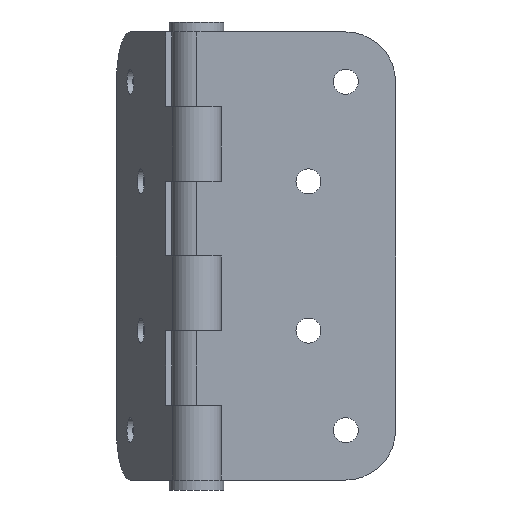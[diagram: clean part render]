
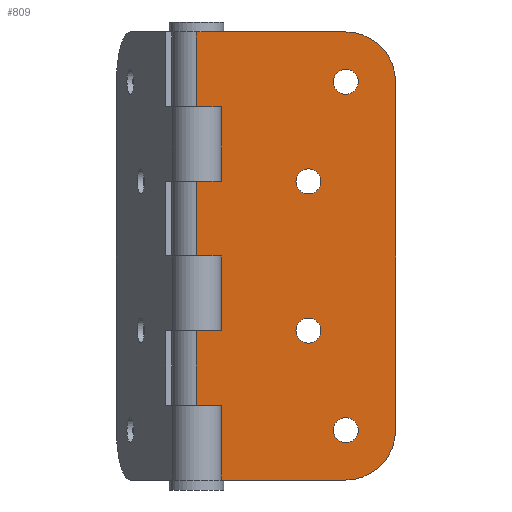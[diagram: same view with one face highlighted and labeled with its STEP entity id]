
A CAD part, front view. The second image highlights one B-rep face of the part: STEP entity #809.
In plain terms, the highlighted planar face has unit normal (0, -1, 0).
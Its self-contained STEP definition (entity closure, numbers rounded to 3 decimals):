
#31=FACE_BOUND('',#148,.T.);
#32=FACE_BOUND('',#149,.T.);
#33=FACE_BOUND('',#150,.T.);
#34=FACE_BOUND('',#151,.T.);
#49=PLANE('',#936);
#102=FACE_OUTER_BOUND('',#147,.T.);
#147=EDGE_LOOP('',(#647,#648,#649,#650,#651,#652,#653,#654,#655,#656,#657,
#658,#659,#660,#661,#662));
#148=EDGE_LOOP('',(#663));
#149=EDGE_LOOP('',(#664));
#150=EDGE_LOOP('',(#665));
#151=EDGE_LOOP('',(#666));
#191=LINE('',#1316,#258);
#199=LINE('',#1341,#266);
#206=LINE('',#1360,#273);
#209=LINE('',#1366,#276);
#212=LINE('',#1372,#279);
#213=LINE('',#1373,#280);
#214=LINE('',#1375,#281);
#215=LINE('',#1377,#282);
#216=LINE('',#1379,#283);
#217=LINE('',#1383,#284);
#218=LINE('',#1387,#285);
#219=LINE('',#1389,#286);
#220=LINE('',#1391,#287);
#221=LINE('',#1392,#288);
#258=VECTOR('',#1060,10.);
#266=VECTOR('',#1086,10.);
#273=VECTOR('',#1107,10.);
#276=VECTOR('',#1112,10.);
#279=VECTOR('',#1117,10.);
#280=VECTOR('',#1118,10.);
#281=VECTOR('',#1119,10.);
#282=VECTOR('',#1120,10.);
#283=VECTOR('',#1121,10.);
#284=VECTOR('',#1124,10.);
#285=VECTOR('',#1127,10.);
#286=VECTOR('',#1128,10.);
#287=VECTOR('',#1129,10.);
#288=VECTOR('',#1130,10.);
#320=CIRCLE('',#894,2.5);
#325=CIRCLE('',#901,2.5);
#330=CIRCLE('',#908,2.5);
#335=CIRCLE('',#915,2.5);
#344=CIRCLE('',#937,10.);
#345=CIRCLE('',#938,10.);
#368=VERTEX_POINT('',#1263);
#373=VERTEX_POINT('',#1277);
#378=VERTEX_POINT('',#1291);
#383=VERTEX_POINT('',#1305);
#384=VERTEX_POINT('',#1309);
#387=VERTEX_POINT('',#1314);
#392=VERTEX_POINT('',#1334);
#395=VERTEX_POINT('',#1339);
#400=VERTEX_POINT('',#1359);
#402=VERTEX_POINT('',#1365);
#404=VERTEX_POINT('',#1371);
#405=VERTEX_POINT('',#1374);
#406=VERTEX_POINT('',#1376);
#407=VERTEX_POINT('',#1378);
#408=VERTEX_POINT('',#1380);
#409=VERTEX_POINT('',#1382);
#410=VERTEX_POINT('',#1384);
#411=VERTEX_POINT('',#1386);
#412=VERTEX_POINT('',#1388);
#413=VERTEX_POINT('',#1390);
#446=EDGE_CURVE('',#368,#368,#320,.T.);
#453=EDGE_CURVE('',#373,#373,#325,.T.);
#460=EDGE_CURVE('',#378,#378,#330,.T.);
#467=EDGE_CURVE('',#383,#383,#335,.T.);
#471=EDGE_CURVE('',#384,#387,#191,.T.);
#483=EDGE_CURVE('',#392,#395,#199,.T.);
#492=EDGE_CURVE('',#384,#400,#206,.T.);
#495=EDGE_CURVE('',#392,#402,#209,.T.);
#498=EDGE_CURVE('',#404,#387,#212,.T.);
#499=EDGE_CURVE('',#402,#404,#213,.T.);
#500=EDGE_CURVE('',#405,#395,#214,.T.);
#501=EDGE_CURVE('',#406,#405,#215,.T.);
#502=EDGE_CURVE('',#407,#406,#216,.T.);
#503=EDGE_CURVE('',#408,#407,#344,.T.);
#504=EDGE_CURVE('',#409,#408,#217,.T.);
#505=EDGE_CURVE('',#410,#409,#345,.T.);
#506=EDGE_CURVE('',#411,#410,#218,.T.);
#507=EDGE_CURVE('',#411,#412,#219,.T.);
#508=EDGE_CURVE('',#413,#412,#220,.T.);
#509=EDGE_CURVE('',#400,#413,#221,.T.);
#647=ORIENTED_EDGE('',*,*,#471,.T.);
#648=ORIENTED_EDGE('',*,*,#498,.F.);
#649=ORIENTED_EDGE('',*,*,#499,.F.);
#650=ORIENTED_EDGE('',*,*,#495,.F.);
#651=ORIENTED_EDGE('',*,*,#483,.T.);
#652=ORIENTED_EDGE('',*,*,#500,.F.);
#653=ORIENTED_EDGE('',*,*,#501,.F.);
#654=ORIENTED_EDGE('',*,*,#502,.F.);
#655=ORIENTED_EDGE('',*,*,#503,.F.);
#656=ORIENTED_EDGE('',*,*,#504,.F.);
#657=ORIENTED_EDGE('',*,*,#505,.F.);
#658=ORIENTED_EDGE('',*,*,#506,.F.);
#659=ORIENTED_EDGE('',*,*,#507,.T.);
#660=ORIENTED_EDGE('',*,*,#508,.F.);
#661=ORIENTED_EDGE('',*,*,#509,.F.);
#662=ORIENTED_EDGE('',*,*,#492,.F.);
#663=ORIENTED_EDGE('',*,*,#446,.T.);
#664=ORIENTED_EDGE('',*,*,#453,.T.);
#665=ORIENTED_EDGE('',*,*,#460,.T.);
#666=ORIENTED_EDGE('',*,*,#467,.T.);
#809=ADVANCED_FACE('',(#102,#31,#32,#33,#34),#49,.F.);
#894=AXIS2_PLACEMENT_3D('',#1265,#1003,#1004);
#901=AXIS2_PLACEMENT_3D('',#1279,#1019,#1020);
#908=AXIS2_PLACEMENT_3D('',#1293,#1035,#1036);
#915=AXIS2_PLACEMENT_3D('',#1307,#1051,#1052);
#936=AXIS2_PLACEMENT_3D('',#1370,#1115,#1116);
#937=AXIS2_PLACEMENT_3D('',#1381,#1122,#1123);
#938=AXIS2_PLACEMENT_3D('',#1385,#1125,#1126);
#1003=DIRECTION('center_axis',(0.,1.,0.));
#1004=DIRECTION('ref_axis',(1.,0.,0.));
#1019=DIRECTION('center_axis',(0.,1.,0.));
#1020=DIRECTION('ref_axis',(1.,0.,0.));
#1035=DIRECTION('center_axis',(0.,1.,0.));
#1036=DIRECTION('ref_axis',(1.,0.,0.));
#1051=DIRECTION('center_axis',(0.,1.,0.));
#1052=DIRECTION('ref_axis',(1.,0.,0.));
#1060=DIRECTION('',(0.,0.,1.));
#1086=DIRECTION('',(0.,0.,1.));
#1107=DIRECTION('',(-1.,0.,0.));
#1112=DIRECTION('',(-1.,0.,0.));
#1115=DIRECTION('center_axis',(0.,1.,0.));
#1116=DIRECTION('ref_axis',(0.,0.,1.));
#1117=DIRECTION('',(1.,0.,0.));
#1118=DIRECTION('',(0.,0.,-1.));
#1119=DIRECTION('',(1.,0.,0.));
#1120=DIRECTION('',(0.,0.,-1.));
#1121=DIRECTION('',(1.,0.,0.));
#1122=DIRECTION('center_axis',(0.,1.,0.));
#1123=DIRECTION('ref_axis',(-0.707,0.,0.707));
#1124=DIRECTION('',(0.,0.,1.));
#1125=DIRECTION('center_axis',(0.,1.,0.));
#1126=DIRECTION('ref_axis',(-0.707,0.,-0.707));
#1127=DIRECTION('',(-1.,0.,0.));
#1128=DIRECTION('',(0.,0.,1.));
#1129=DIRECTION('',(1.,0.,0.));
#1130=DIRECTION('',(0.,0.,-1.));
#1263=CARTESIAN_POINT('',(-2.5,0.,15.));
#1265=CARTESIAN_POINT('Origin',(0.,0.,15.));
#1277=CARTESIAN_POINT('',(-10.,0.,-35.));
#1279=CARTESIAN_POINT('Origin',(-7.5,0.,-35.));
#1291=CARTESIAN_POINT('',(-2.5,0.,-15.));
#1293=CARTESIAN_POINT('Origin',(0.,0.,-15.));
#1305=CARTESIAN_POINT('',(-10.,0.,35.));
#1307=CARTESIAN_POINT('Origin',(-7.5,0.,35.));
#1309=CARTESIAN_POINT('',(22.5,0.,-15.));
#1314=CARTESIAN_POINT('',(22.5,0.,0.));
#1316=CARTESIAN_POINT('',(22.5,0.,-11.25));
#1334=CARTESIAN_POINT('',(22.5,0.,15.));
#1339=CARTESIAN_POINT('',(22.5,0.,30.));
#1341=CARTESIAN_POINT('',(22.5,0.,3.75));
#1359=CARTESIAN_POINT('',(17.5,0.,-15.));
#1360=CARTESIAN_POINT('',(27.5,0.,-15.));
#1365=CARTESIAN_POINT('',(17.5,0.,15.));
#1366=CARTESIAN_POINT('',(27.5,0.,15.));
#1370=CARTESIAN_POINT('Origin',(22.5,0.,-7.5));
#1371=CARTESIAN_POINT('',(17.5,0.,0.));
#1372=CARTESIAN_POINT('',(17.5,0.,0.));
#1373=CARTESIAN_POINT('',(17.5,0.,45.));
#1374=CARTESIAN_POINT('',(17.5,0.,30.));
#1375=CARTESIAN_POINT('',(17.5,0.,30.));
#1376=CARTESIAN_POINT('',(17.5,0.,45.));
#1377=CARTESIAN_POINT('',(17.5,0.,45.));
#1378=CARTESIAN_POINT('',(-7.5,0.,45.));
#1379=CARTESIAN_POINT('',(-17.5,0.,45.));
#1380=CARTESIAN_POINT('',(-17.5,0.,35.));
#1381=CARTESIAN_POINT('Origin',(-7.5,0.,35.));
#1382=CARTESIAN_POINT('',(-17.5,0.,-35.));
#1383=CARTESIAN_POINT('',(-17.5,0.,-45.));
#1384=CARTESIAN_POINT('',(-7.5,0.,-45.));
#1385=CARTESIAN_POINT('Origin',(-7.5,0.,-35.));
#1386=CARTESIAN_POINT('',(22.5,0.,-45.));
#1387=CARTESIAN_POINT('',(27.5,0.,-45.));
#1388=CARTESIAN_POINT('',(22.5,0.,-30.));
#1389=CARTESIAN_POINT('',(22.5,0.,-26.25));
#1390=CARTESIAN_POINT('',(17.5,0.,-30.));
#1391=CARTESIAN_POINT('',(17.5,0.,-30.));
#1392=CARTESIAN_POINT('',(17.5,0.,45.));
